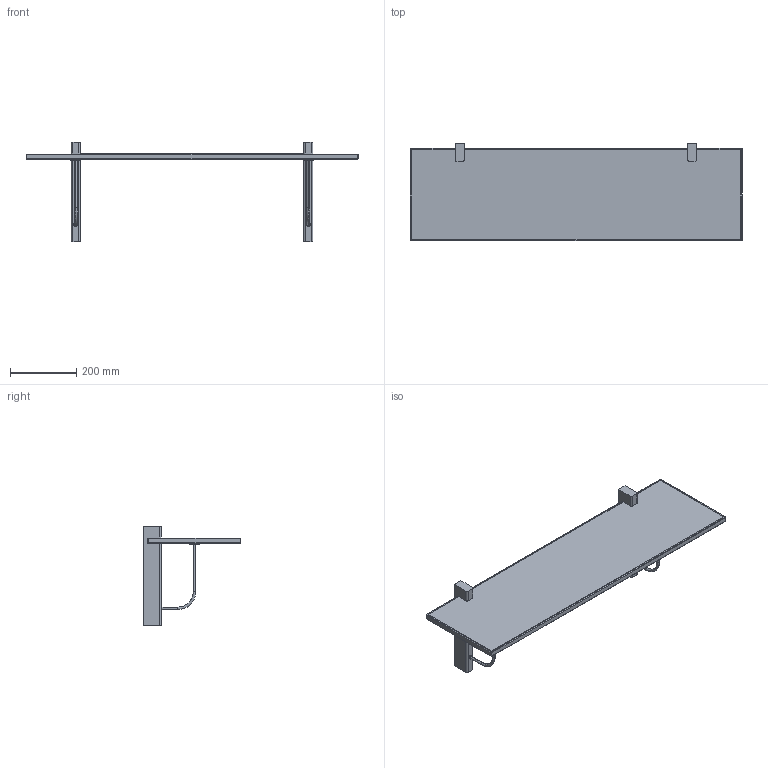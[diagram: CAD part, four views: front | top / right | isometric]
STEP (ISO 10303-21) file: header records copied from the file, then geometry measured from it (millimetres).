
FILE_DESCRIPTION(/* description */ (''),/* implementation_level */ '2;1');
FILE_NAME(/* name */ 'Corbel Long Shelf',/* time_stamp */ '2024-01-29T15:32:41+01:00',/* author */ (''),/* organization */ (''),/* preprocessor_version */ 'ST-DEVELOPER v16.5',/* originating_system */ 'Rhino 7.31',/* authorisation */ '');
FILE_SCHEMA (('AUTOMOTIVE_DESIGN'));
Length unit declared in the file: millimetre
Products named in the file (1): Document
Bounding box: 1000 x 295 x 300 mm (x, y, z)
Volume: 5436479.6 mm3; surface area: 822682.2 mm2
Topology: 13 solids, 17 shells, 208 faces, 481 edges, 311 vertices
Faces by surface type: plane 88, bspline 62, cylinder 58
Entity records: 10025 total; most frequent: CARTESIAN_POINT 6737, ORIENTED_EDGE 948, EDGE_CURVE 478, VERTEX_POINT 308, B_SPLINE_CURVE_WITH_KNOTS 301, EDGE_LOOP 240, ADVANCED_FACE 208, FACE_OUTER_BOUND 208
